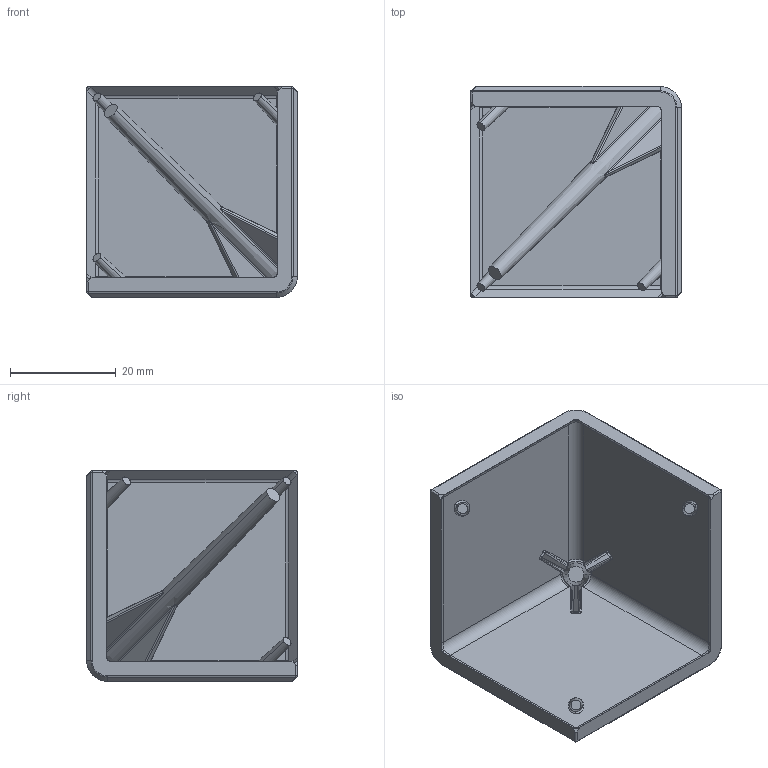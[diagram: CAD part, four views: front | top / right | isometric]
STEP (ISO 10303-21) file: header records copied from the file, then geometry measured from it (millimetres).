
FILE_DESCRIPTION (( 'STEP AP214' ), '1' );
FILE_NAME ('084.310.029.STEP', '2021-02-05T10:52:41', ( '' ), ( '' ), 'SwSTEP 2.0', 'SolidWorks 2018', '' );
FILE_SCHEMA (( 'AUTOMOTIVE_DESIGN' ));
Length unit declared in the file: millimetre
Products named in the file (1): 084.310.029
Bounding box: 39.9 x 39.9 x 39.9 mm (x, y, z)
Volume: 10107.5 mm3; surface area: 10715.8 mm2
Topology: 1 solids, 1 shells, 158 faces, 369 edges, 207 vertices
Faces by surface type: bspline 64, cylinder 46, plane 37, cone 11
Entity records: 7266 total; most frequent: CARTESIAN_POINT 4196, ORIENTED_EDGE 720, DIRECTION 513, EDGE_CURVE 360, VERTEX_POINT 207, AXIS2_PLACEMENT_3D 192, EDGE_LOOP 161, ADVANCED_FACE 158
